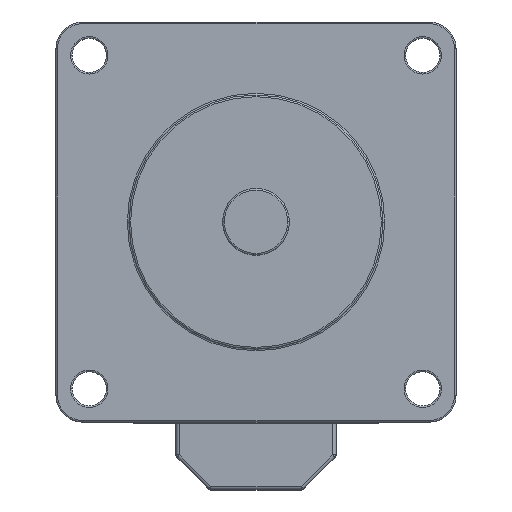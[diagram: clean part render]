
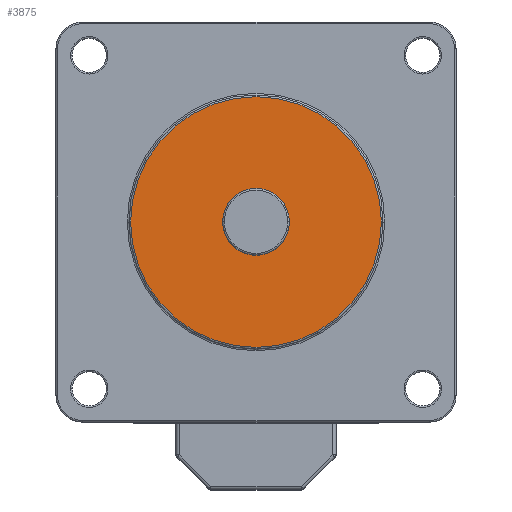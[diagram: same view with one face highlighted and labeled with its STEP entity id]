
A CAD part, top view. The second image highlights one B-rep face of the part: STEP entity #3875.
In plain terms, the highlighted planar face has unit normal (0, 0, 1).
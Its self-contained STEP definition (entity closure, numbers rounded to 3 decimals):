
#1245 = CARTESIAN_POINT ( 'NONE',  ( 11.2, 30., 13.6 ) ) ;
#1373 = DIRECTION ( 'NONE',  ( 0., 0., 1. ) ) ;
#2040 = CARTESIAN_POINT ( 'NONE',  ( 30., 30., 13.6 ) ) ;
#2193 = CARTESIAN_POINT ( 'NONE',  ( 48.8, 30., 13.6 ) ) ;
#2433 = DIRECTION ( 'NONE',  ( 0., 0., 1. ) ) ;
#2828 = DIRECTION ( 'NONE',  ( 1., 0., 0. ) ) ;
#3221 = PLANE ( 'NONE',  #7510 ) ;
#3486 = AXIS2_PLACEMENT_3D ( 'NONE', #7806, #2433, #7047 ) ;
#3875 = ADVANCED_FACE ( 'NONE', ( #6343 ), #3221, .T. ) ;
#4068 = CARTESIAN_POINT ( 'NONE',  ( 30., 30., 13.6 ) ) ;
#5511 = CIRCLE ( 'NONE', #7460, 18.8 ) ;
#5527 = ORIENTED_EDGE ( 'NONE', *, *, #7804, .T. ) ;
#5641 = DIRECTION ( 'NONE',  ( 0., 0., 1. ) ) ;
#5684 = VERTEX_POINT ( 'NONE', #1245 ) ;
#5810 = EDGE_CURVE ( 'NONE', #5684, #6022, #7817, .T. ) ;
#6022 = VERTEX_POINT ( 'NONE', #2193 ) ;
#6343 = FACE_OUTER_BOUND ( 'NONE', #6674, .T. ) ;
#6674 = EDGE_LOOP ( 'NONE', ( #5527, #6967 ) ) ;
#6967 = ORIENTED_EDGE ( 'NONE', *, *, #5810, .T. ) ;
#7047 = DIRECTION ( 'NONE',  ( 1., 0., 0. ) ) ;
#7460 = AXIS2_PLACEMENT_3D ( 'NONE', #2040, #1373, #2828 ) ;
#7510 = AXIS2_PLACEMENT_3D ( 'NONE', #4068, #5641, #7853 ) ;
#7804 = EDGE_CURVE ( 'NONE', #6022, #5684, #5511, .T. ) ;
#7806 = CARTESIAN_POINT ( 'NONE',  ( 30., 30., 13.6 ) ) ;
#7817 = CIRCLE ( 'NONE', #3486, 18.8 ) ;
#7853 = DIRECTION ( 'NONE',  ( 1., 0., 0. ) ) ;
